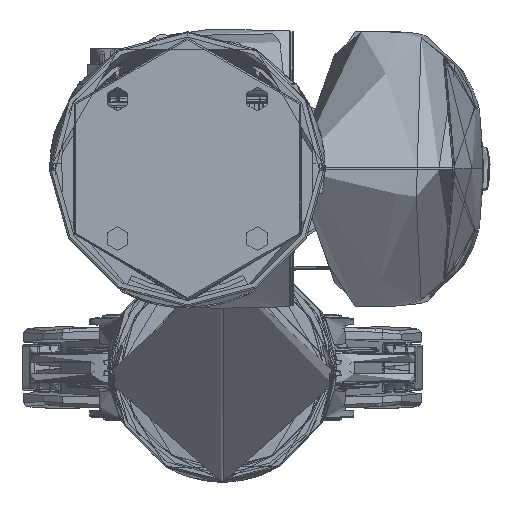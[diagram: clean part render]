
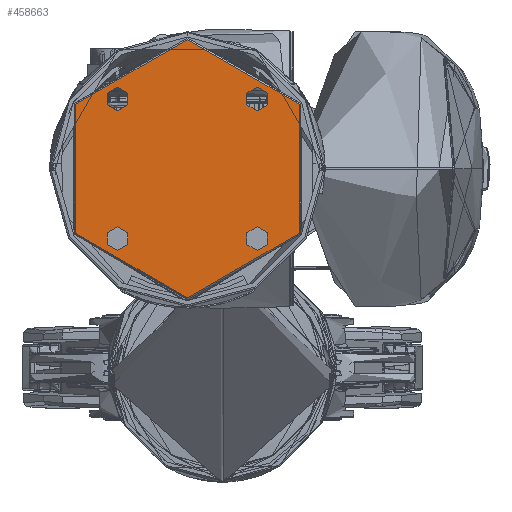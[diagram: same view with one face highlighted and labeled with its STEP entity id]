
A CAD part, front view. The second image highlights one B-rep face of the part: STEP entity #458663.
In plain terms, the highlighted planar face has unit normal (0, -1, 0).
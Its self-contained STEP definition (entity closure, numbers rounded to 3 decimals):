
#12498 = EDGE_LOOP ( 'NONE', ( #475125, #575532 ) ) ;
#17663 = EDGE_LOOP ( 'NONE', ( #476257, #566994 ) ) ;
#34217 = CIRCLE ( 'NONE', #95979, 3.4 ) ;
#40029 = CARTESIAN_POINT ( 'NONE',  ( -20., 0., -23.4 ) ) ;
#52231 = CIRCLE ( 'NONE', #391271, 3.4 ) ;
#52479 = CARTESIAN_POINT ( 'NONE',  ( 20., 0., -20. ) ) ;
#55871 = CARTESIAN_POINT ( 'NONE',  ( 20., 0., 20. ) ) ;
#56542 = VERTEX_POINT ( 'NONE', #404610 ) ;
#56597 = DIRECTION ( 'NONE',  ( 0., 0., -1. ) ) ;
#61218 = CIRCLE ( 'NONE', #684122, 3.4 ) ;
#75280 = FACE_BOUND ( 'NONE', #396859, .T. ) ;
#76010 = AXIS2_PLACEMENT_3D ( 'NONE', #587516, #517885, #136190 ) ;
#78477 = VERTEX_POINT ( 'NONE', #727947 ) ;
#85076 = ORIENTED_EDGE ( 'NONE', *, *, #578953, .F. ) ;
#95979 = AXIS2_PLACEMENT_3D ( 'NONE', #739561, #357860, #173907 ) ;
#107387 = AXIS2_PLACEMENT_3D ( 'NONE', #763018, #384040, #183658 ) ;
#122430 = ORIENTED_EDGE ( 'NONE', *, *, #767167, .F. ) ;
#132541 = EDGE_CURVE ( 'NONE', #236078, #146317, #249310, .T. ) ;
#133578 = EDGE_LOOP ( 'NONE', ( #187677, #679083 ) ) ;
#136190 = DIRECTION ( 'NONE',  ( 0., 0., -1. ) ) ;
#136537 = VERTEX_POINT ( 'NONE', #659388 ) ;
#146317 = VERTEX_POINT ( 'NONE', #597717 ) ;
#156369 = VERTEX_POINT ( 'NONE', #316107 ) ;
#166562 = EDGE_LOOP ( 'NONE', ( #122430, #575668 ) ) ;
#173907 = DIRECTION ( 'NONE',  ( 0., 0., -1. ) ) ;
#175178 = DIRECTION ( 'NONE',  ( 0., 0., -1. ) ) ;
#183658 = DIRECTION ( 'NONE',  ( 0., 0., 1. ) ) ;
#183980 = DIRECTION ( 'NONE',  ( 0., -1., 0. ) ) ;
#187677 = ORIENTED_EDGE ( 'NONE', *, *, #132541, .T. ) ;
#219599 = EDGE_CURVE ( 'NONE', #385555, #78477, #759061, .T. ) ;
#236078 = VERTEX_POINT ( 'NONE', #737968 ) ;
#239170 = DIRECTION ( 'NONE',  ( 0., -1., 0. ) ) ;
#246085 = DIRECTION ( 'NONE',  ( 0., -1., 0. ) ) ;
#249310 = CIRCLE ( 'NONE', #107387, 37. ) ;
#252571 = AXIS2_PLACEMENT_3D ( 'NONE', #576283, #704418, #389548 ) ;
#265836 = CARTESIAN_POINT ( 'NONE',  ( -20., 0., 20. ) ) ;
#278409 = AXIS2_PLACEMENT_3D ( 'NONE', #52479, #239170, #175178 ) ;
#299137 = CARTESIAN_POINT ( 'NONE',  ( -20., 0., -20. ) ) ;
#316107 = CARTESIAN_POINT ( 'NONE',  ( 20., 0., 16.6 ) ) ;
#346954 = CARTESIAN_POINT ( 'NONE',  ( 0., 0., 0. ) ) ;
#348474 = CIRCLE ( 'NONE', #785329, 37. ) ;
#357860 = DIRECTION ( 'NONE',  ( 0., -1., 0. ) ) ;
#377972 = DIRECTION ( 'NONE',  ( 0., 0., -1. ) ) ;
#381651 = DIRECTION ( 'NONE',  ( 0., 0., -1. ) ) ;
#384040 = DIRECTION ( 'NONE',  ( 0., -1., 0. ) ) ;
#384706 = ORIENTED_EDGE ( 'NONE', *, *, #775777, .F. ) ;
#385555 = VERTEX_POINT ( 'NONE', #676365 ) ;
#388367 = EDGE_CURVE ( 'NONE', #674447, #56542, #34217, .T. ) ;
#389548 = DIRECTION ( 'NONE',  ( 0., 0., 1. ) ) ;
#391271 = AXIS2_PLACEMENT_3D ( 'NONE', #622473, #246085, #563801 ) ;
#396859 = EDGE_LOOP ( 'NONE', ( #384706, #85076 ) ) ;
#404610 = CARTESIAN_POINT ( 'NONE',  ( -20., 0., -16.6 ) ) ;
#424766 = FACE_BOUND ( 'NONE', #12498, .T. ) ;
#433986 = CARTESIAN_POINT ( 'NONE',  ( 20., 0., 23.4 ) ) ;
#444553 = FACE_BOUND ( 'NONE', #166562, .T. ) ;
#444620 = CIRCLE ( 'NONE', #567177, 3.4 ) ;
#444753 = DIRECTION ( 'NONE',  ( 0., -1., 0. ) ) ;
#458663 = ADVANCED_FACE ( 'NONE', ( #424766, #75280, #773137, #733335, #444553 ), #517631, .F. ) ;
#460577 = CIRCLE ( 'NONE', #278409, 3.4 ) ;
#475125 = ORIENTED_EDGE ( 'NONE', *, *, #674895, .F. ) ;
#476257 = ORIENTED_EDGE ( 'NONE', *, *, #388367, .F. ) ;
#503364 = EDGE_CURVE ( 'NONE', #146317, #236078, #348474, .T. ) ;
#503966 = AXIS2_PLACEMENT_3D ( 'NONE', #631538, #444753, #377972 ) ;
#507500 = CARTESIAN_POINT ( 'NONE',  ( -20., 0., 16.6 ) ) ;
#517631 = PLANE ( 'NONE',  #252571 ) ;
#517885 = DIRECTION ( 'NONE',  ( 0., -1., 0. ) ) ;
#524967 = DIRECTION ( 'NONE',  ( 0., 0., -1. ) ) ;
#533697 = DIRECTION ( 'NONE',  ( 0., 0., 1. ) ) ;
#557461 = EDGE_CURVE ( 'NONE', #56542, #674447, #61218, .T. ) ;
#563801 = DIRECTION ( 'NONE',  ( 0., 0., -1. ) ) ;
#566374 = DIRECTION ( 'NONE',  ( 0., -1., 0. ) ) ;
#566994 = ORIENTED_EDGE ( 'NONE', *, *, #557461, .F. ) ;
#567177 = AXIS2_PLACEMENT_3D ( 'NONE', #265836, #711686, #524967 ) ;
#570413 = EDGE_CURVE ( 'NONE', #577716, #156369, #52231, .T. ) ;
#575532 = ORIENTED_EDGE ( 'NONE', *, *, #570413, .F. ) ;
#575668 = ORIENTED_EDGE ( 'NONE', *, *, #219599, .F. ) ;
#576191 = AXIS2_PLACEMENT_3D ( 'NONE', #55871, #183980, #381651 ) ;
#576283 = CARTESIAN_POINT ( 'NONE',  ( 0., 0., 0. ) ) ;
#577716 = VERTEX_POINT ( 'NONE', #433986 ) ;
#578953 = EDGE_CURVE ( 'NONE', #136537, #691021, #444620, .T. ) ;
#587516 = CARTESIAN_POINT ( 'NONE',  ( -20., 0., 20. ) ) ;
#597717 = CARTESIAN_POINT ( 'NONE',  ( 0., 0., -37. ) ) ;
#600607 = DIRECTION ( 'NONE',  ( 0., -1., 0. ) ) ;
#609648 = CIRCLE ( 'NONE', #576191, 3.4 ) ;
#622473 = CARTESIAN_POINT ( 'NONE',  ( 20., 0., 20. ) ) ;
#631538 = CARTESIAN_POINT ( 'NONE',  ( 20., 0., -20. ) ) ;
#659388 = CARTESIAN_POINT ( 'NONE',  ( -20., 0., 23.4 ) ) ;
#674447 = VERTEX_POINT ( 'NONE', #40029 ) ;
#674895 = EDGE_CURVE ( 'NONE', #156369, #577716, #609648, .T. ) ;
#676365 = CARTESIAN_POINT ( 'NONE',  ( 20., 0., -16.6 ) ) ;
#679083 = ORIENTED_EDGE ( 'NONE', *, *, #503364, .T. ) ;
#684122 = AXIS2_PLACEMENT_3D ( 'NONE', #299137, #566374, #56597 ) ;
#691021 = VERTEX_POINT ( 'NONE', #507500 ) ;
#704418 = DIRECTION ( 'NONE',  ( 0., 1., 0. ) ) ;
#711686 = DIRECTION ( 'NONE',  ( 0., -1., 0. ) ) ;
#727947 = CARTESIAN_POINT ( 'NONE',  ( 20., 0., -23.4 ) ) ;
#733335 = FACE_BOUND ( 'NONE', #17663, .T. ) ;
#737968 = CARTESIAN_POINT ( 'NONE',  ( 0., 0., 37. ) ) ;
#739561 = CARTESIAN_POINT ( 'NONE',  ( -20., 0., -20. ) ) ;
#759061 = CIRCLE ( 'NONE', #503966, 3.4 ) ;
#763018 = CARTESIAN_POINT ( 'NONE',  ( 0., 0., 0. ) ) ;
#767167 = EDGE_CURVE ( 'NONE', #78477, #385555, #460577, .T. ) ;
#773137 = FACE_OUTER_BOUND ( 'NONE', #133578, .T. ) ;
#775777 = EDGE_CURVE ( 'NONE', #691021, #136537, #813012, .T. ) ;
#785329 = AXIS2_PLACEMENT_3D ( 'NONE', #346954, #600607, #533697 ) ;
#813012 = CIRCLE ( 'NONE', #76010, 3.4 ) ;
